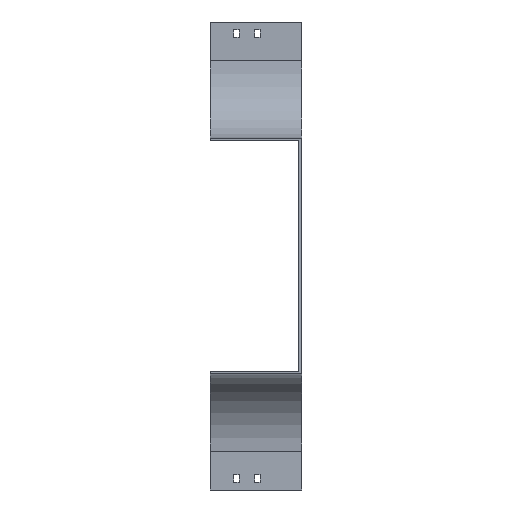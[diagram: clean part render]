
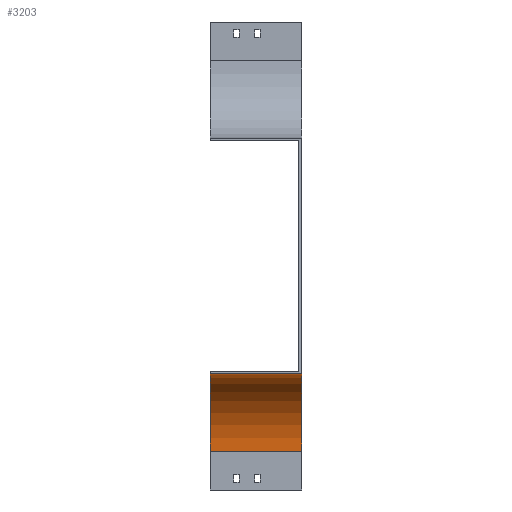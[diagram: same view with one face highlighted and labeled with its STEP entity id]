
A CAD part, left-side view. The second image highlights one B-rep face of the part: STEP entity #3203.
In plain terms, the highlighted cylindrical face has radius 100 mm (diameter 200 mm), a partial arc.
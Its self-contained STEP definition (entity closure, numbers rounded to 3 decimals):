
#87 = VERTEX_POINT ( 'NONE', #3584 ) ;
#252 = CARTESIAN_POINT ( 'NONE',  ( -504., 117.5, -504. ) ) ;
#343 = DIRECTION ( 'NONE',  ( 0., -1., 0. ) ) ;
#368 = LINE ( 'NONE', #3007, #2922 ) ;
#680 = CARTESIAN_POINT ( 'NONE',  ( -504., 117.5, -404. ) ) ;
#971 = FACE_OUTER_BOUND ( 'NONE', #2997, .T. ) ;
#1020 = ORIENTED_EDGE ( 'NONE', *, *, #3354, .T. ) ;
#1050 = EDGE_CURVE ( 'NONE', #2164, #87, #1274, .T. ) ;
#1262 = VECTOR ( 'NONE', #1559, 1000. ) ;
#1272 = DIRECTION ( 'NONE',  ( 0., -1., 0. ) ) ;
#1274 = CIRCLE ( 'NONE', #1998, 100. ) ;
#1316 = CARTESIAN_POINT ( 'NONE',  ( -404., 0., -504. ) ) ;
#1527 = DIRECTION ( 'NONE',  ( 0., 0., -1. ) ) ;
#1559 = DIRECTION ( 'NONE',  ( 0., -1., 0. ) ) ;
#1712 = VERTEX_POINT ( 'NONE', #680 ) ;
#1804 = CARTESIAN_POINT ( 'NONE',  ( -504., 0., -504. ) ) ;
#1998 = AXIS2_PLACEMENT_3D ( 'NONE', #1804, #343, #1527 ) ;
#2028 = DIRECTION ( 'NONE',  ( 0., -1., 0. ) ) ;
#2043 = DIRECTION ( 'NONE',  ( 0., -1., 0. ) ) ;
#2142 = LINE ( 'NONE', #3305, #1262 ) ;
#2145 = VERTEX_POINT ( 'NONE', #3698 ) ;
#2164 = VERTEX_POINT ( 'NONE', #1316 ) ;
#2325 = AXIS2_PLACEMENT_3D ( 'NONE', #2909, #2043, #3836 ) ;
#2621 = CYLINDRICAL_SURFACE ( 'NONE', #2325, 100. ) ;
#2700 = EDGE_CURVE ( 'NONE', #2145, #1712, #3044, .T. ) ;
#2858 = ORIENTED_EDGE ( 'NONE', *, *, #1050, .T. ) ;
#2909 = CARTESIAN_POINT ( 'NONE',  ( -504., 117.5, -504. ) ) ;
#2922 = VECTOR ( 'NONE', #1272, 1000. ) ;
#2997 = EDGE_LOOP ( 'NONE', ( #2858, #3011, #3227, #1020 ) ) ;
#3007 = CARTESIAN_POINT ( 'NONE',  ( -404., 117.5, -504. ) ) ;
#3011 = ORIENTED_EDGE ( 'NONE', *, *, #3823, .F. ) ;
#3044 = CIRCLE ( 'NONE', #3744, 100. ) ;
#3203 = ADVANCED_FACE ( 'NONE', ( #971 ), #2621, .F. ) ;
#3204 = DIRECTION ( 'NONE',  ( 0., 0., -1. ) ) ;
#3227 = ORIENTED_EDGE ( 'NONE', *, *, #2700, .F. ) ;
#3305 = CARTESIAN_POINT ( 'NONE',  ( -504., 117.5, -404. ) ) ;
#3354 = EDGE_CURVE ( 'NONE', #2145, #2164, #368, .T. ) ;
#3584 = CARTESIAN_POINT ( 'NONE',  ( -504., 0., -404. ) ) ;
#3698 = CARTESIAN_POINT ( 'NONE',  ( -404., 117.5, -504. ) ) ;
#3744 = AXIS2_PLACEMENT_3D ( 'NONE', #252, #2028, #3204 ) ;
#3823 = EDGE_CURVE ( 'NONE', #1712, #87, #2142, .T. ) ;
#3836 = DIRECTION ( 'NONE',  ( 0., 0., -1. ) ) ;
